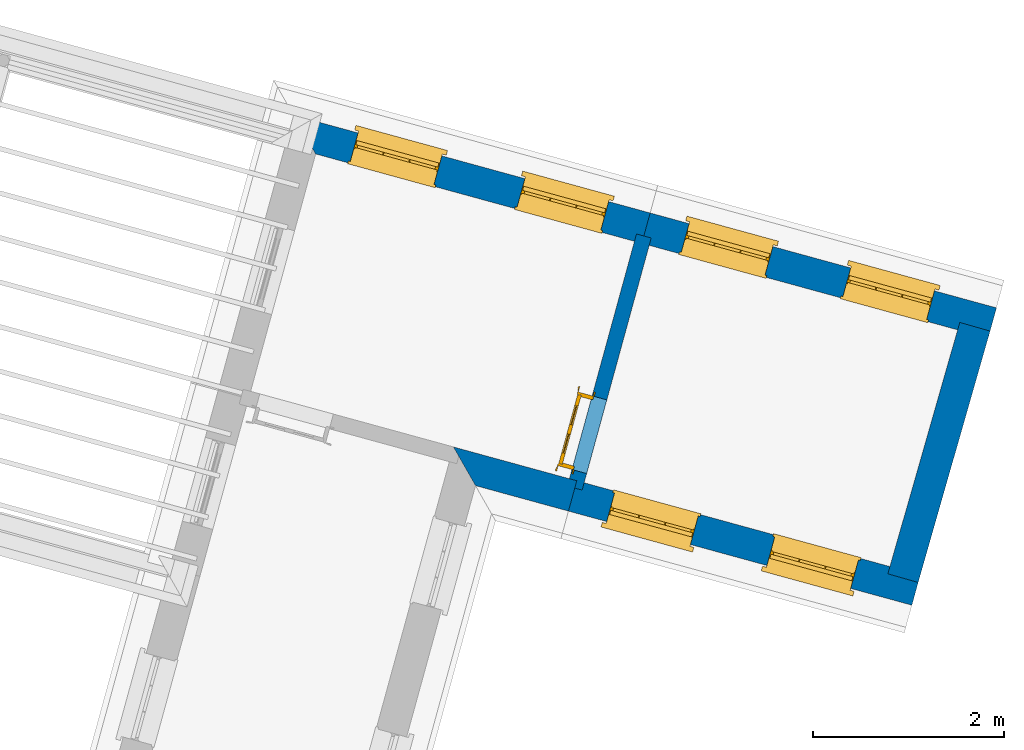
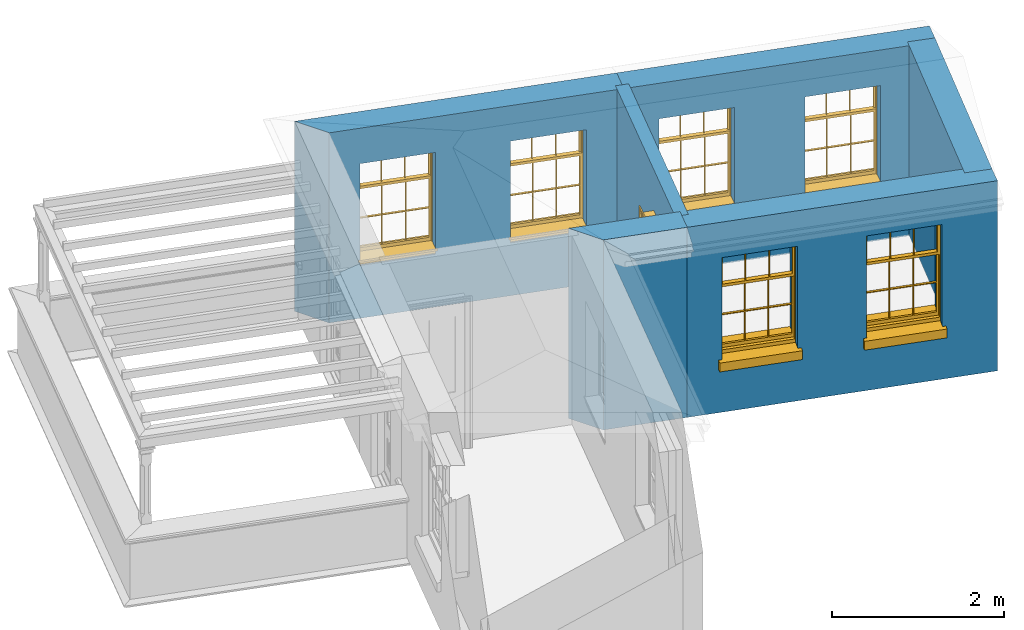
# One storey, part 4 of 5: 6 walls, 6 windows, 1 door, 7 openings.
"""IFC4 building model written with IfcOpenShell, lengths in metres."""

from ifc_helpers import new_model, si_unit, frame, origin, origin_with_axes, place, context, subcontext, project, spatial, polyline, outline, extrude, faceted_brep, source, transform, mapped, material, layer, layer_set, layer_usage, type_object, type_shapes, element, fill, save


model = new_model("IFC4")

# Units and contexts
model_context = context("Model", 3, world=origin_with_axes())
body_context = subcontext(model_context, "Body", "Model", "MODEL_VIEW")
ifc_project = project(units=[si_unit("PLANEANGLEUNIT", "RADIAN"), si_unit("MASSUNIT", "GRAM", prefix="KILO"), si_unit("FORCEUNIT", "NEWTON", prefix="KILO"), si_unit("LENGTHUNIT", "METRE"), si_unit("AREAUNIT", "SQUARE_METRE"), si_unit("VOLUMEUNIT", "CUBIC_METRE")], contexts=[model_context, model_context])

# Sites, building, storey
site_1_placement = place(None, origin_with_axes())
site_1 = spatial("IfcSite", under=ifc_project, at=site_1_placement, Name="Tamar")
site_2_placement = place(site_1_placement, origin_with_axes())
site_2 = spatial("IfcSite", under=site_1, at=site_2_placement, Name="Site plot-29", CompositionType="ELEMENT")
building_placement = place(None, origin_with_axes())
building = spatial("IfcBuilding", under=site_2, at=building_placement, Name="Building plot-29", CompositionType="ELEMENT")
storey_placement = place(None, frame((0.0, 0.0, 30.55), z_axis=(0.0, 0.0, 1.0), x_axis=(1.0, 0.0, 0.0)))
storey = spatial("IfcBuildingStorey", under=building, at=storey_placement, Name="plot-29 2", CompositionType="ELEMENT", Elevation=30.55)

# Wall
ifc_material_1 = material(Name="Masonry")
ifc_layer_1 = layer(ifc_material_1, 0.33, ventilated=False)
ifc_layer_set_1 = layer_set([ifc_layer_1], Name="exterior_0.08_0.25")
ifc_layer_usage_1 = layer_usage(ifc_layer_set_1, "AXIS2", "POSITIVE", -0.25)
wall_type_1 = type_object("IfcWallType", Name="exterior_0.08_0.25", PredefinedType="SOLIDWALL", material=ifc_layer_set_1)
wall_1_placement = place(storey_placement, frame((275.841180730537, 261.90733006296, 0.0), z_axis=(0.0, 0.0, 1.0), x_axis=(0.964452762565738, -0.264255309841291, 0.0)))
element("IfcWall", 1, at=wall_1_placement, inside=storey, type_object=wall_type_1, material=ifc_layer_usage_1, Name="exterior", context=body_context, shape_type="SweptSolid", body=[
    extrude(outline(polyline([(-0.0799999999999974, 0.0800000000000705), (0.249999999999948, -0.249999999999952), (1.26011429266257, -0.250000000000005), (1.26011429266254, 0.0800000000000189), (-0.0799999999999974, 0.0800000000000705)])), origin_with_axes(), (0.0, 0.0, 1.0), 2.7),
])

# Wall, openings, windows
wall_2_placement = place(storey_placement, frame((277.056501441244, 261.574338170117, 0.0), z_axis=(0.0, 0.0, 1.0), x_axis=(0.964452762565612, -0.264255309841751, 0.0)))
wall_2 = element("IfcWall", 2, at=wall_2_placement, inside=storey, type_object=wall_type_1, material=ifc_layer_usage_1, Name="exterior", context=body_context, shape_type="SweptSolid", body=[
    extrude(outline(polyline([(-5.64477217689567e-14, 0.0800000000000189), (1.32070615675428e-13, -0.250000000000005), (3.7310994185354, -0.249999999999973), (3.7310994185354, 0.0799999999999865), (-5.64477217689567e-14, 0.0800000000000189)])), origin_with_axes(), (0.0, 0.0, 1.0), 2.7),
])
opening_1_placement = place(wall_2_placement, frame((0.415274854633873, 0.0, 0.75)))
opening_1 = element("IfcOpeningElement", 3, at=opening_1_placement, cuts=wall_2, Name="My Opening", ObjectType="Opening", context=body_context, shape_type="SweptSolid", body=[
    extrude(outline(polyline([(0.0, -0.269999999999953), (0.910000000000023, -0.269999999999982), (0.910000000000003, 1.1), (-1.9817480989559e-14, 1.10000000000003), (0.0, -0.269999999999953)])), origin_with_axes(), (0.0, 0.0, 1.0), 1.445),
])
opening_2_placement = place(wall_2_placement, frame((2.15582456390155, 0.0, 0.75)))
opening_2 = element("IfcOpeningElement", 4, at=opening_2_placement, cuts=wall_2, Name="My Opening", ObjectType="Opening", context=body_context, shape_type="SweptSolid", body=[
    extrude(outline(polyline([(0.0, -0.26999999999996), (0.910000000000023, -0.269999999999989), (0.910000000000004, 1.1), (-1.95399252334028e-14, 1.10000000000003), (0.0, -0.26999999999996)])), origin_with_axes(), (0.0, 0.0, 1.0), 1.445),
])
window_type = type_object("IfcWindowType", Name="sash_shorter", PartitioningType="DOUBLE_PANEL_HORIZONTAL", PredefinedType="NOTDEFINED")
shared_shape_1 = source(origin(), body_context, "Body", "Brep", [
    faceted_brep([(0.876875, 0.145, 0.999097), (0.876875, 0.145, 1.411875), (0.9, 0.145, 1.435), (0.033125, 0.145, 1.411875), (0.033125, 0.145, 0.999097), (0.01, 0.145, 1.435), (0.033125, 0.115, 1.411875), (0.01, 0.115, 1.435), (0.033125, 0.115, 0.999097), (0.876875, 0.115, 1.411875), (0.876875, 0.115, 0.999097), (0.9, 0.115, 1.435), (0.033125, 0.145, 0.960972), (0.01, 0.145, 0.960972), (0.033125, 0.145, 0.548195), (0.876875, 0.145, 0.960972), (0.876875, 0.145, 0.548195), (0.9, 0.145, 0.960972), (0.876875, 0.145, 0.538195), (0.876875, 0.145, 0.125417), (0.9, 0.145, 0.077167), (0.033125, 0.145, 0.125417), (0.033125, 0.145, 0.538195), (0.01, 0.145, 0.077167), (0.9, 0.115, 0.960972), (0.01, 0.115, 0.960972), (-0.0425, 0.0, 0.01), (-0.0425, -0.05, 0.001667), (0.0, 0.0, 0.01), (0.9525, 0.0, 0.01), (0.91, 0.0, 0.01), (0.9525, -0.05, 0.001667), (-0.02, 0.33, 0.077167), (0.0, 0.33, 0.077167), (-0.02, 0.36, 0.077167), (0.0, 0.19, 0.077167), (0.01, 0.19, 0.077167), (0.91, 0.19, 0.077167), (0.91, 0.33, 0.077167), (0.9, 0.19, 0.077167), (0.93, 0.33, 0.077167), (0.93, 0.36, 0.077167), (0.01, 0.145, 0.999097), (0.01, 0.175, 0.999097), (0.9, 0.145, 0.999097), (0.9, 0.175, 0.999097), (0.876875, 0.175, 0.125417), (0.876875, 0.175, 0.538195), (0.9, 0.175, 0.077167), (0.876875, 0.175, 0.548195), (0.876875, 0.175, 0.960972), (0.033125, 0.175, 0.125417), (0.01, 0.175, 0.077167), (0.033125, 0.175, 0.538195), (0.033125, 0.175, 0.960972), (0.033125, 0.175, 0.548195), (-0.02, 0.33, 0.052167), (-0.02, 0.36, 0.052167), (0.93, 0.36, 0.052167), (0.93, 0.33, 0.052167), (0.91, 0.33, 0.052167), (0.0, 0.33, 0.052167), (0.91, 0.1, 0.026667), (0.0, 0.1, 0.026667), (-0.0425, -0.05, -0.123333), (0.9525, -0.05, -0.123333), (-0.0425, 0.0, -0.123333), (0.9525, 0.0, -0.123333), (0.01, 0.19, 1.435), (0.9, 0.19, 1.435), (0.0, 0.19, 1.445), (0.91, 0.19, 1.445), (0.01, 0.1, 0.077167), (0.9, 0.1, 0.077167), (0.592292, 0.145, 0.125417), (0.592292, 0.175, 0.125417), (0.317708, 0.175, 0.125417), (0.317708, 0.145, 0.125417), (0.592292, 0.145, 0.548195), (0.317708, 0.145, 0.548195), (0.317708, 0.145, 0.538195), (0.592292, 0.145, 0.538195), (0.592292, 0.175, 0.548195), (0.317708, 0.175, 0.548195), (0.602292, 0.175, 0.548195), (0.602292, 0.145, 0.548195), (0.317708, 0.175, 0.538195), (0.307708, 0.175, 0.125417), (0.307708, 0.175, 0.538195), (0.602292, 0.175, 0.538195), (0.602292, 0.175, 0.125417), (0.592292, 0.175, 0.538195), (0.307708, 0.175, 0.548195), (0.317708, 0.175, 0.960972), (0.307708, 0.175, 0.960972), (0.602292, 0.175, 0.960972), (0.592292, 0.175, 0.960972), (0.307708, 0.145, 0.538195), (0.307708, 0.145, 0.125417), (0.307708, 0.145, 0.548195), (0.307708, 0.145, 0.960972), (0.592292, 0.145, 0.960972), (0.317708, 0.145, 0.960972), (0.602292, 0.145, 0.960972), (0.602292, 0.145, 0.538195), (0.602292, 0.145, 0.125417), (0.317708, 0.115, 1.411875), (0.307708, 0.115, 1.411875), (0.307708, 0.115, 0.999097), (0.317708, 0.115, 0.999097), (0.602292, 0.115, 1.411875), (0.592292, 0.115, 1.411875), (0.592292, 0.115, 0.999097), (0.602292, 0.115, 0.999097), (0.317708, 0.145, 0.999097), (0.307708, 0.145, 0.999097), (0.307708, 0.145, 1.411875), (0.317708, 0.145, 1.411875), (0.602292, 0.145, 0.999097), (0.592292, 0.145, 0.999097), (0.592292, 0.145, 1.411875), (0.602292, 0.145, 1.411875), (0.91, 0.1, 1.445), (0.9, 0.1, 1.435), (0.01, 0.1, 1.435), (0.0, 0.1, 1.445), (0.91, 0.0, 0.0), (0.0, 0.0, 0.0), (0.91, 0.33, 0.0), (0.0, 0.33, 0.0)], [[[0, 1, 2]], [[3, 4, 5]], [[6, 7, 8]], [[9, 10, 11]], [[12, 13, 14]], [[15, 16, 17]], [[18, 19, 20]], [[21, 22, 23]], [[24, 15, 17]], [[13, 12, 25]], [[26, 27, 28]], [[29, 30, 31]], [[32, 33, 34]], [[35, 36, 33]], [[37, 38, 39]], [[40, 41, 38]], [[42, 4, 43]], [[44, 45, 0]], [[46, 47, 48]], [[49, 50, 45]], [[51, 52, 53]], [[54, 55, 43]], [[38, 33, 36, 39]], [[41, 34, 33, 38]], [[56, 32, 34, 57]], [[57, 34, 41, 58]], [[58, 41, 40, 59]], [[57, 58, 60, 61]], [[52, 48, 39, 36]], [[62, 63, 28, 30]], [[27, 31, 30, 28]], [[27, 64, 65, 31]], [[66, 67, 65, 64]], [[2, 5, 68, 69]], [[68, 70, 71, 69]], [[20, 23, 72, 73]], [[73, 72, 63, 62]], [[74, 75, 76, 77]], [[78, 79, 80, 81]], [[78, 82, 83, 79]], [[16, 49, 84, 85]], [[86, 76, 87, 88]], [[89, 90, 75, 91]], [[92, 88, 53, 55]], [[82, 91, 86, 83]], [[93, 83, 92, 94]], [[95, 84, 82, 96]], [[89, 84, 49, 47]], [[97, 88, 87, 98]], [[22, 53, 88, 97]], [[81, 91, 75, 74]], [[80, 86, 91, 81]], [[77, 76, 86, 80]], [[99, 92, 55, 14]], [[100, 94, 92, 99]], [[101, 96, 82, 78]], [[79, 83, 93, 102]], [[85, 84, 95, 103]], [[104, 89, 47, 18]], [[105, 90, 89, 104]], [[104, 18, 16, 85]], [[80, 97, 98, 77]], [[104, 81, 74, 105]], [[103, 101, 78, 85]], [[99, 14, 22, 97]], [[102, 100, 99, 79]], [[106, 107, 108, 109]], [[110, 111, 112, 113]], [[114, 115, 116, 117]], [[118, 119, 120, 121]], [[107, 116, 115, 108]], [[111, 120, 119, 112]], [[109, 114, 117, 106]], [[113, 118, 121, 110]], [[85, 78, 81, 104]], [[84, 89, 91, 82]], [[83, 86, 88, 92]], [[79, 99, 97, 80]], [[109, 112, 119, 114]], [[102, 93, 96, 101]], [[106, 117, 120, 111]], [[98, 87, 51, 21]], [[6, 3, 116, 107]], [[110, 121, 1, 9]], [[19, 46, 90, 105]], [[26, 66, 64, 27]], [[29, 31, 65, 67]], [[25, 24, 112, 109]], [[11, 7, 106, 111]], [[75, 48, 52, 76]], [[43, 45, 96, 93]], [[45, 43, 114, 119]], [[5, 2, 120, 117]], [[24, 25, 102, 101]], [[42, 5, 4]], [[2, 44, 0]], [[49, 45, 48, 47]], [[52, 43, 55, 53]], [[14, 13, 23, 22]], [[20, 17, 16, 18]], [[24, 11, 10]], [[25, 8, 7]], [[8, 4, 3, 6]], [[9, 1, 0, 10]], [[15, 50, 49, 16]], [[18, 47, 46, 19]], [[21, 51, 53, 22]], [[14, 55, 54, 12]], [[44, 2, 69, 45]], [[68, 5, 42, 43]], [[36, 35, 70, 68]], [[39, 69, 71, 37]], [[62, 122, 123, 73]], [[63, 72, 124, 125]], [[8, 108, 115, 4]], [[113, 10, 0, 118]], [[94, 100, 12, 54]], [[17, 20, 73, 24]], [[72, 23, 13, 25]], [[52, 36, 68, 43]], [[69, 39, 48, 45]], [[11, 24, 73, 123]], [[7, 124, 72, 25]], [[23, 77, 98]], [[98, 21, 23]], [[105, 74, 20]], [[20, 19, 105]], [[20, 74, 77, 23]], [[113, 112, 24]], [[24, 10, 113]], [[25, 109, 108]], [[108, 8, 25]], [[110, 9, 11]], [[11, 111, 110]], [[7, 6, 107]], [[107, 106, 7]], [[5, 117, 116]], [[116, 3, 5]], [[121, 120, 2]], [[2, 1, 121]], [[11, 123, 124, 7]], [[122, 125, 124, 123]], [[43, 93, 94]], [[94, 54, 43]], [[96, 45, 95]], [[50, 95, 45]], [[15, 103, 95, 50]], [[48, 75, 90]], [[90, 46, 48]], [[87, 76, 52]], [[52, 51, 87]], [[103, 15, 24]], [[24, 101, 103]], [[100, 102, 25]], [[25, 12, 100]], [[115, 114, 43]], [[43, 4, 115]], [[118, 0, 45]], [[45, 119, 118]], [[71, 70, 125, 122]], [[70, 35, 63, 125]], [[122, 62, 37, 71]], [[126, 67, 66, 127]], [[60, 58, 59]], [[38, 60, 59, 40]], [[61, 56, 57]], [[32, 56, 61, 33]], [[61, 60, 128, 129]], [[62, 60, 38, 37]], [[126, 128, 60, 62]], [[33, 61, 63, 35]], [[61, 129, 127, 63]], [[128, 126, 127, 129]], [[28, 127, 66, 26]], [[63, 127, 28]], [[29, 67, 126, 30]], [[30, 126, 62]]]),
])
type_shapes(window_type, [shared_shape_1])
window_1_placement = place(storey_placement, frame((277.385665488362, 261.204197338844, 0.75), z_axis=(0.0, 0.0, 1.0), x_axis=(0.877652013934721, -0.240472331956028, 0.0)))
window_1 = element("IfcWindow", 5, at=window_1_placement, inside=storey, type_object=window_type, Name="bedroom outside window", OverallHeight=1.445, OverallWidth=0.91, context=body_context, shape_type="MappedRepresentation", body=[
    mapped(shared_shape_1, transform((0.0, 0.0, 0.0), scale=1.0)),
])
fill(opening_1, window_1)
window_2_placement = place(storey_placement, frame((279.064343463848, 260.744247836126, 0.75), z_axis=(0.0, 0.0, 1.0), x_axis=(0.877652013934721, -0.240472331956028, 0.0)))
window_2 = element("IfcWindow", 6, at=window_2_placement, inside=storey, type_object=window_type, Name="bedroom outside window", OverallHeight=1.445, OverallWidth=0.91, context=body_context, shape_type="MappedRepresentation", body=[
    mapped(shared_shape_1, transform((0.0, 0.0, 0.0), scale=1.0)),
])
fill(opening_2, window_2)

wall_3_placement = place(storey_placement, frame((281.167421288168, 263.288028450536, 0.0), z_axis=(0.0, 0.0, 1.0), x_axis=(-0.964452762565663, 0.264255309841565, 0.0)))
wall_3 = element("IfcWall", 7, at=wall_3_placement, inside=storey, type_object=wall_type_1, material=ifc_layer_usage_1, Name="exterior", context=body_context, shape_type="SweptSolid", body=[
    extrude(outline(polyline([(-0.249999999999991, 0.0799999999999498), (-0.249999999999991, -0.250000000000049), (3.51193624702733, -0.25000000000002), (3.51193624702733, 0.0799999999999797), (-0.249999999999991, 0.0799999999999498)])), origin_with_axes(), (0.0, 0.0, 1.0), 2.7),
])
opening_3_placement = place(wall_3_placement, frame((0.422984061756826, 0.0, 0.75)))
opening_3 = element("IfcOpeningElement", 8, at=opening_3_placement, cuts=wall_3, Name="My Opening", ObjectType="Opening", context=body_context, shape_type="SweptSolid", body=[
    extrude(outline(polyline([(0.0, -0.270000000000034), (0.909999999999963, -0.270000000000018), (0.910000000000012, 1.10000000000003), (4.95714580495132e-14, 1.10000000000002), (0.0, -0.270000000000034)])), origin_with_axes(), (0.0, 0.0, 1.0), 1.445),
])
opening_4_placement = place(wall_3_placement, frame((2.17895218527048, 0.0, 0.75)))
opening_4 = element("IfcOpeningElement", 9, at=opening_4_placement, cuts=wall_3, Name="My Opening", ObjectType="Opening", context=body_context, shape_type="SweptSolid", body=[
    extrude(outline(polyline([(0.0, -0.270000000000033), (0.909999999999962, -0.270000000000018), (0.910000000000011, 1.10000000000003), (4.88498130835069e-14, 1.10000000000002), (0.0, -0.270000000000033)])), origin_with_axes(), (0.0, 0.0, 1.0), 1.445),
])
window_3_placement = place(storey_placement, frame((280.830822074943, 263.660206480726, 0.75), z_axis=(0.0, 0.0, 1.0), x_axis=(-0.877652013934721, 0.2404723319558, 0.0)))
window_3 = element("IfcWindow", 10, at=window_3_placement, inside=storey, type_object=window_type, Name="bedroom outside window", OverallHeight=1.445, OverallWidth=0.91, context=body_context, shape_type="MappedRepresentation", body=[
    mapped(shared_shape_1, transform((0.0, 0.0, 0.0), scale=1.0)),
])
fill(opening_3, window_3)
window_4_placement = place(storey_placement, frame((279.137273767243, 264.124230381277, 0.75), z_axis=(0.0, 0.0, 1.0), x_axis=(-0.877652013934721, 0.2404723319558, 0.0)))
window_4 = element("IfcWindow", 11, at=window_4_placement, inside=storey, type_object=window_type, Name="bedroom outside window", OverallHeight=1.445, OverallWidth=0.91, context=body_context, shape_type="MappedRepresentation", body=[
    mapped(shared_shape_1, transform((0.0, 0.0, 0.0), scale=1.0)),
])
fill(opening_4, window_4)

wall_4_placement = place(storey_placement, frame((277.780324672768, 264.216076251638, 0.0), z_axis=(0.0, 0.0, 1.0), x_axis=(-0.964452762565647, 0.264255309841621, 0.0)))
wall_4 = element("IfcWall", 12, at=wall_4_placement, inside=storey, type_object=wall_type_1, material=ifc_layer_usage_1, Name="exterior", context=body_context, shape_type="SweptSolid", body=[
    extrude(outline(polyline([(2.41278244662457e-14, 0.0799999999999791), (4.37025841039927e-14, -0.25000000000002), (3.87381554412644, -0.249999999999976), (3.54381554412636, 0.0799999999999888), (2.41278244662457e-14, 0.0799999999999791)])), origin_with_axes(), (0.0, 0.0, 1.0), 2.7),
])
opening_5_placement = place(wall_4_placement, frame((0.45095388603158, 0.0, 0.75)))
opening_5 = element("IfcOpeningElement", 13, at=opening_5_placement, cuts=wall_4, Name="My Opening", ObjectType="Opening", context=body_context, shape_type="SweptSolid", body=[
    extrude(outline(polyline([(0.0, -0.270000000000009), (0.909999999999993, -0.27000000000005), (0.910000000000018, 1.10000000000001), (2.51465515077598e-14, 1.10000000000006), (0.0, -0.270000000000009)])), origin_with_axes(), (0.0, 0.0, 1.0), 1.445),
])
opening_6_placement = place(wall_4_placement, frame((2.26286165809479, 0.0, 0.75)))
opening_6 = element("IfcOpeningElement", 14, at=opening_6_placement, cuts=wall_4, Name="My Opening", ObjectType="Opening", context=body_context, shape_type="SweptSolid", body=[
    extrude(outline(polyline([(0.0, -0.270000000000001), (0.909999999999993, -0.270000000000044), (0.910000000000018, 1.10000000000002), (2.48689957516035e-14, 1.10000000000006), (0.0, -0.270000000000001)])), origin_with_axes(), (0.0, 0.0, 1.0), 1.445),
])
window_5_placement = place(storey_placement, frame((277.416749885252, 264.595645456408, 0.75), z_axis=(0.0, 0.0, 1.0), x_axis=(-0.877652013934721, 0.240472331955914, 0.0)))
window_5 = element("IfcWindow", 15, at=window_5_placement, inside=storey, type_object=window_type, Name="circulation outside window", OverallHeight=1.445, OverallWidth=0.91, context=body_context, shape_type="MappedRepresentation", body=[
    mapped(shared_shape_1, transform((0.0, 0.0, 0.0), scale=1.0)),
])
fill(opening_5, window_5)
window_6_placement = place(storey_placement, frame((275.669250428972, 265.074451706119, 0.75), z_axis=(0.0, 0.0, 1.0), x_axis=(-0.877652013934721, 0.240472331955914, 0.0)))
window_6 = element("IfcWindow", 16, at=window_6_placement, inside=storey, type_object=window_type, Name="circulation outside window", OverallHeight=1.445, OverallWidth=0.91, context=body_context, shape_type="MappedRepresentation", body=[
    mapped(shared_shape_1, transform((0.0, 0.0, 0.0), scale=1.0)),
])
fill(opening_6, window_6)

# Wall
ifc_material_2 = material(Name="Masonry")
ifc_layer_2 = layer(ifc_material_2, 0.33, ventilated=False)
ifc_layer_set_2 = layer_set([ifc_layer_2], Name="party_0.08_0.25")
ifc_layer_usage_2 = layer_usage(ifc_layer_set_2, "AXIS2", "POSITIVE", -0.25)
wall_type_2 = type_object("IfcWallType", Name="party_0.08_0.25", PredefinedType="SOLIDWALL", material=ifc_layer_set_2)
wall_5_placement = place(storey_placement, frame((280.413857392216, 260.654439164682, 0.0), z_axis=(0.0, 0.0, 1.0), x_axis=(0.275095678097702, 0.961416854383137, 0.0)))
element("IfcWall", 17, at=wall_5_placement, inside=storey, type_object=wall_type_2, material=ifc_layer_usage_2, Name="party", context=body_context, shape_type="SweptSolid", body=[
    extrude(outline(polyline([(7.11032594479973e-15, 0.080000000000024), (1.58359861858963e-14, -0.249999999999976), (2.73927929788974, -0.249999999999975), (2.73927929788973, 0.0800000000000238), (7.11032594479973e-15, 0.080000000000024)])), origin_with_axes(), (0.0, 0.0, 1.0), 2.7),
])

# Wall, opening, door
ifc_material_3 = material(Name="Masonry")
ifc_layer_3 = layer(ifc_material_3, 0.16, ventilated=False)
ifc_layer_set_3 = layer_set([ifc_layer_3], Name="interior_0.08_0.08")
ifc_layer_usage_3 = layer_usage(ifc_layer_set_3, "AXIS2", "POSITIVE", -0.08)
wall_type_3 = type_object("IfcWallType", Name="interior_0.08_0.08", PredefinedType="SOLIDWALL", material=ifc_layer_set_3)
wall_6_placement = place(storey_placement, frame((277.056501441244, 261.574338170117, 0.0), z_axis=(0.0, 0.0, 1.0), x_axis=(0.264255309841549, 0.964452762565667, 0.0)))
wall_6 = element("IfcWall", 18, at=wall_6_placement, inside=storey, type_object=wall_type_3, material=ifc_layer_usage_3, Name="interior", context=body_context, shape_type="SweptSolid", body=[
    extrude(outline(polyline([(3.0114147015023e-14, 0.0799999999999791), (-3.00865862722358e-14, -0.0799999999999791), (2.73910572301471, -0.0799999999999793), (2.73910572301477, 0.0799999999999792), (3.0114147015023e-14, 0.0799999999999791)])), origin_with_axes(), (0.0, 0.0, 1.0), 2.7),
])
opening_7_placement = place(wall_6_placement, frame((0.17999999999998, 0.0, 0.0199999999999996)))
opening_7 = element("IfcOpeningElement", 19, at=opening_7_placement, cuts=wall_6, Name="My Opening", ObjectType="Opening", context=body_context, shape_type="SweptSolid", body=[
    extrude(outline(polyline([(0.0, -0.100000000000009), (0.800000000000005, -0.100000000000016), (0.800000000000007, 1.10000000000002), (2.38697950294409e-15, 1.10000000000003), (0.0, -0.100000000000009)])), origin_with_axes(), (0.0, 0.0, 1.0), 2.1),
])
door_type = type_object("IfcDoorType", Name="door_inside", OperationType="SINGLE_SWING_LEFT", PredefinedType="NOTDEFINED")
shared_shape_2 = source(origin(), body_context, "Body", "Brep", [
    faceted_brep([(0.773, 0.33, 1.895), (0.66, 0.33, 1.895), (0.66, 0.33, 2.073), (0.773, 0.33, 2.073), (0.773, 0.33, 0.82), (0.66, 0.33, 0.82), (0.45, 0.33, 1.895), (0.45, 0.33, 2.073), (0.773, 0.33, 0.62), (0.66, 0.33, 0.62), (0.66, 0.315, 0.82), (0.66, 0.315, 1.895), (0.45, 0.315, 1.895), (0.35, 0.33, 1.895), (0.35, 0.33, 2.073), (0.773, 0.33, 0.225), (0.66, 0.33, 0.225), (0.45, 0.33, 0.62), (0.45, 0.33, 0.82), (0.45, 0.315, 0.82), (0.35, 0.33, 0.82), (0.14, 0.33, 2.073), (0.14, 0.33, 1.895), (0.773, 0.33, 0.0), (0.66, 0.33, 0.0), (0.66, 0.315, 0.225), (0.66, 0.315, 0.62), (0.45, 0.315, 0.62), (0.35, 0.33, 0.62), (0.35, 0.315, 0.82), (0.35, 0.315, 1.895), (0.14, 0.315, 1.895), (0.027, 0.33, 2.073), (0.027, 0.33, 1.895), (0.773, 0.292, 0.0), (0.66, 0.292, 0.0), (0.45, 0.33, 0.0), (0.45, 0.33, 0.225), (0.45, 0.315, 0.225), (0.35, 0.33, 0.225), (0.14, 0.33, 0.82), (0.14, 0.33, 0.62), (0.14, 0.315, 0.82), (0.027, 0.33, 0.82), (0.773, 0.292, 0.225), (0.66, 0.292, 0.225), (0.45, 0.292, 0.0), (0.35, 0.33, 0.0), (0.35, 0.315, 0.225), (0.35, 0.315, 0.62), (0.14, 0.315, 0.62), (0.027, 0.33, 0.62), (0.773, 0.292, 0.62), (0.66, 0.292, 0.62), (0.45, 0.292, 0.225), (0.35, 0.292, 0.0), (0.14, 0.33, 0.225), (0.14, 0.33, 0.0), (0.14, 0.315, 0.225), (0.027, 0.33, 0.225), (0.773, 0.292, 0.82), (0.66, 0.292, 0.82), (0.66, 0.307, 0.62), (0.66, 0.307, 0.225), (0.45, 0.307, 0.225), (0.35, 0.292, 0.225), (0.14, 0.292, 0.0), (0.027, 0.33, 0.0), (0.773, 0.292, 1.895), (0.66, 0.292, 1.895), (0.45, 0.292, 0.62), (0.45, 0.292, 0.82), (0.45, 0.307, 0.62), (0.35, 0.292, 0.62), (0.14, 0.292, 0.225), (0.027, 0.292, 0.0), (0.773, 0.292, 2.073), (0.66, 0.292, 2.073), (0.66, 0.307, 1.895), (0.66, 0.307, 0.82), (0.45, 0.307, 0.82), (0.35, 0.292, 0.82), (0.35, 0.307, 0.62), (0.35, 0.307, 0.225), (0.14, 0.307, 0.225), (0.027, 0.292, 0.225), (0.45, 0.292, 1.895), (0.45, 0.292, 2.073), (0.45, 0.307, 1.895), (0.35, 0.292, 1.895), (0.14, 0.292, 0.82), (0.14, 0.292, 0.62), (0.14, 0.307, 0.62), (0.027, 0.292, 0.62), (0.35, 0.292, 2.073), (0.35, 0.307, 1.895), (0.35, 0.307, 0.82), (0.14, 0.307, 0.82), (0.027, 0.292, 0.82), (0.14, 0.292, 2.073), (0.14, 0.292, 1.895), (0.14, 0.307, 1.895), (0.027, 0.292, 1.895), (0.027, 0.292, 2.073), (0.02, 0.335, 0.0), (0.005, 0.34, 0.0), (0.005, 0.34, 2.095), (0.02, 0.335, 2.08), (0.02, 0.33, 0.0), (0.0, 0.335, 0.0), (0.0, 0.335, 2.1), (0.795, 0.34, 2.095), (0.78, 0.335, 2.08), (0.02, 0.33, 2.08), (0.0, 0.33, 0.0), (-0.032, 0.345, 0.0), (-0.032, 0.345, 2.132), (0.8, 0.335, 2.1), (0.795, 0.34, 0.0), (0.78, 0.335, 0.0), (0.78, 0.33, 2.08), (0.04, 0.29, 0.0), (0.025, 0.29, 0.0), (0.025, 0.29, 2.075), (0.04, 0.29, 2.06), (-0.04, 0.34, 0.0), (-0.04, 0.34, 2.14), (0.832, 0.345, 2.132), (0.8, 0.335, 0.0), (0.78, 0.33, 0.0), (0.8, 0.33, 0.0), (0.86, 0.33, 0.0), (0.86, 0.33, 2.16), (0.8, 0.33, 2.1), (-0.06, 0.33, 2.16), (0.0, 0.33, 2.1), (-0.06, 0.33, 0.0), (-0.04, 0.345, 0.0), (-0.04, 0.345, 2.14), (0.84, 0.34, 2.14), (0.832, 0.345, 0.0), (0.84, 0.34, 0.0), (0.86, 0.345, 0.0), (0.86, 0.345, 2.16), (-0.06, 0.345, 2.16), (-0.06, 0.345, 0.0), (0.84, 0.345, 0.0), (0.84, 0.345, 2.14), (-0.025, 0.155, 0.0), (-0.025, 0.16, 0.0), (-0.025, 0.16, 2.125), (-0.025, 0.155, 2.125), (-0.017, 0.155, 0.0), (-0.017, 0.155, 2.117), (0.825, 0.16, 2.125), (0.825, 0.155, 2.125), (0.825, 0.155, 0.0), (0.845, 0.155, 0.0), (-0.045, 0.155, 2.145), (-0.045, 0.155, 0.0), (0.845, 0.155, 2.145), (0.015, 0.165, 0.0), (0.015, 0.165, 2.085), (0.817, 0.155, 2.117), (0.825, 0.16, 0.0), (0.845, 0.17, 0.0), (0.845, 0.17, 2.145), (-0.045, 0.17, 2.145), (-0.045, 0.17, 0.0), (0.02, 0.16, 0.0), (0.02, 0.16, 2.08), (0.785, 0.165, 2.085), (0.817, 0.155, 0.0), (0.8, 0.17, 0.0), (0.8, 0.17, 2.1), (0.0, 0.17, 2.1), (0.0, 0.17, 0.0), (0.035, 0.165, 0.0), (0.035, 0.165, 2.065), (0.78, 0.16, 2.08), (0.785, 0.165, 0.0), (0.775, 0.29, 2.075), (0.76, 0.29, 2.06), (0.035, 0.17, 2.065), (0.035, 0.17, 0.0), (0.765, 0.165, 2.065), (0.78, 0.16, 0.0), (0.765, 0.17, 0.0), (0.765, 0.17, 2.065), (0.765, 0.165, 0.0), (0.04, 0.17, 2.06), (0.04, 0.17, 0.0), (0.76, 0.17, 2.06), (0.76, 0.17, 0.0), (0.76, 0.29, 0.0), (0.775, 0.29, 0.0), (0.025, 0.33, 0.0), (0.025, 0.33, 2.075), (0.775, 0.33, 0.0), (0.775, 0.33, 2.075)], [[[0, 1, 2, 3]], [[1, 0, 4, 5]], [[1, 6, 7, 2]], [[8, 9, 5, 4]], [[1, 5, 10, 11]], [[6, 1, 11, 12]], [[6, 13, 14, 7]], [[15, 16, 9, 8]], [[9, 17, 18, 5]], [[5, 18, 19, 10]], [[10, 19, 12, 11]], [[18, 6, 12, 19]], [[18, 20, 13, 6]], [[21, 14, 13, 22]], [[23, 24, 16, 15]], [[9, 16, 25, 26]], [[17, 9, 26, 27]], [[17, 28, 20, 18]], [[13, 20, 29, 30]], [[22, 13, 30, 31]], [[32, 21, 22, 33]], [[34, 35, 24, 23]], [[24, 36, 37, 16]], [[16, 37, 38, 25]], [[25, 38, 27, 26]], [[37, 17, 27, 38]], [[37, 39, 28, 17]], [[40, 20, 28, 41]], [[20, 40, 42, 29]], [[31, 30, 29, 42]], [[40, 22, 31, 42]], [[33, 22, 40, 43]], [[35, 34, 44, 45]], [[35, 46, 36, 24]], [[36, 47, 39, 37]], [[28, 39, 48, 49]], [[41, 28, 49, 50]], [[43, 40, 41, 51]], [[45, 44, 52, 53]], [[46, 35, 45, 54]], [[46, 55, 47, 36]], [[56, 39, 47, 57]], [[39, 56, 58, 48]], [[50, 49, 48, 58]], [[56, 41, 50, 58]], [[51, 41, 56, 59]], [[53, 52, 60, 61]], [[45, 53, 62, 63]], [[54, 45, 63, 64]], [[55, 46, 54, 65]], [[55, 66, 57, 47]], [[59, 56, 57, 67]], [[61, 60, 68, 69]], [[70, 53, 61, 71]], [[53, 70, 72, 62]], [[72, 64, 63, 62]], [[70, 54, 64, 72]], [[65, 54, 70, 73]], [[65, 74, 66, 55]], [[67, 57, 66, 75]], [[69, 68, 76, 77]], [[61, 69, 78, 79]], [[71, 61, 79, 80]], [[73, 70, 71, 81]], [[65, 73, 82, 83]], [[74, 65, 83, 84]], [[74, 85, 75, 66]], [[86, 69, 77, 87]], [[69, 86, 88, 78]], [[88, 80, 79, 78]], [[86, 71, 80, 88]], [[81, 71, 86, 89]], [[73, 81, 90, 91]], [[73, 91, 92, 82]], [[83, 82, 92, 84]], [[91, 74, 84, 92]], [[91, 93, 85, 74]], [[89, 86, 87, 94]], [[81, 89, 95, 96]], [[90, 81, 96, 97]], [[90, 98, 93, 91]], [[94, 99, 100, 89]], [[89, 100, 101, 95]], [[101, 97, 96, 95]], [[100, 90, 97, 101]], [[100, 102, 98, 90]], [[99, 103, 102, 100]], [[32, 103, 99, 21]], [[102, 103, 32, 33]], [[98, 102, 33, 43]], [[21, 99, 94, 14]], [[94, 87, 7, 14]], [[7, 87, 77, 2]], [[76, 3, 2, 77]], [[43, 51, 93, 98]], [[51, 59, 85, 93]], [[67, 75, 85, 59]], [[34, 23, 15, 44]], [[44, 15, 8, 52]], [[52, 8, 4, 60]], [[0, 68, 60, 4]], [[0, 3, 76, 68]], [[104, 105, 106, 107]], [[104, 108, 109, 105]], [[105, 109, 110, 106]], [[107, 106, 111, 112]], [[107, 113, 108, 104]], [[114, 109, 108]], [[109, 115, 116, 110]], [[106, 110, 117, 111]], [[112, 111, 118, 119]], [[113, 107, 112, 120]], [[121, 122, 123, 124]], [[115, 109, 114, 125]], [[115, 125, 126, 116]], [[110, 116, 127, 117]], [[111, 117, 128, 118]], [[118, 128, 129, 119]], [[120, 112, 119, 129]], [[130, 129, 128]], [[130, 131, 132, 133]], [[133, 132, 134, 135]], [[135, 134, 136, 114]], [[136, 125, 114]], [[125, 137, 138, 126]], [[116, 126, 139, 127]], [[117, 127, 140, 128]], [[141, 130, 128, 140]], [[131, 130, 141]], [[131, 142, 143, 132]], [[132, 143, 144, 134]], [[134, 144, 145, 136]], [[137, 125, 136, 145]], [[143, 142, 146]], [[143, 146, 147]], [[137, 145, 144]], [[143, 147, 138]], [[138, 137, 144]], [[143, 138, 144]], [[126, 138, 147, 139]], [[127, 139, 141, 140]], [[142, 131, 141, 146]], [[139, 147, 146, 141]], [[148, 149, 150, 151]], [[149, 152, 153, 150]], [[151, 150, 154, 155]], [[155, 156, 157]], [[158, 159, 148]], [[158, 148, 151]], [[155, 157, 160]], [[158, 151, 155]], [[155, 160, 158]], [[152, 161, 162, 153]], [[150, 153, 163, 154]], [[155, 154, 164, 156]], [[156, 164, 165, 157]], [[157, 165, 166, 160]], [[160, 166, 167, 158]], [[158, 167, 168, 159]], [[161, 169, 170, 162]], [[153, 162, 171, 163]], [[154, 163, 172, 164]], [[165, 164, 173]], [[165, 173, 174, 166]], [[166, 174, 175, 167]], [[167, 175, 176, 168]], [[169, 177, 178, 170]], [[162, 170, 179, 171]], [[163, 171, 180, 172]], [[172, 180, 173, 164]], [[124, 123, 181, 182]], [[183, 178, 177, 184]], [[170, 178, 185, 179]], [[171, 179, 186, 180]], [[187, 173, 180]], [[185, 188, 187, 189]], [[188, 185, 178, 183]], [[179, 185, 189, 186]], [[189, 187, 180, 186]], [[190, 183, 184, 191]], [[192, 188, 183, 190]], [[191, 184, 122, 121]], [[124, 190, 191, 121]], [[193, 187, 188, 192]], [[182, 192, 190, 124]], [[184, 176, 122]], [[194, 195, 187, 193]], [[192, 182, 194, 193]], [[161, 176, 184]], [[114, 108, 122, 176]], [[173, 187, 195]], [[152, 149, 176, 161]], [[169, 161, 184, 177]], [[196, 122, 108]], [[176, 175, 135, 114]], [[173, 195, 129, 130]], [[176, 149, 168]], [[123, 122, 196, 197]], [[196, 108, 113, 197]], [[175, 174, 133, 135]], [[198, 129, 195]], [[133, 174, 173, 130]], [[159, 168, 149, 148]], [[181, 123, 197, 199]], [[197, 113, 120, 199]], [[199, 120, 129, 198]], [[195, 181, 199, 198]], [[195, 194, 182, 181]]]),
])
type_shapes(door_type, [shared_shape_2])
door_placement = place(storey_placement, frame((277.200512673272, 261.721514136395, 0.0199999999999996), z_axis=(0.0, 0.0, 1.0), x_axis=(0.211404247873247, 0.771562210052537, 0.0)))
door = element("IfcDoor", 20, at=door_placement, inside=storey, type_object=door_type, Name="bedroom inside door", OverallHeight=2.1, OverallWidth=0.8, context=body_context, shape_type="MappedRepresentation", body=[
    mapped(shared_shape_2, transform((0.0, 0.0, 0.0), scale=1.0)),
])
fill(opening_7, door)

save(model, "model.ifc")
